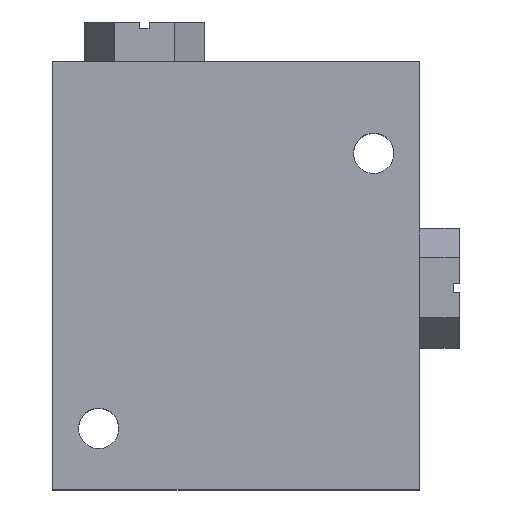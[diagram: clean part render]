
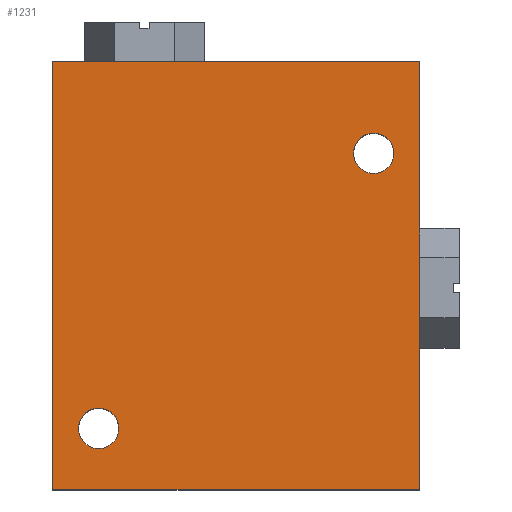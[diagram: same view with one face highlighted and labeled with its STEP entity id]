
A CAD part, top view. The second image highlights one B-rep face of the part: STEP entity #1231.
In plain terms, the highlighted planar face has unit normal (0, 0, 1).
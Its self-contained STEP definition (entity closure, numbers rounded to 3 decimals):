
#71=DIRECTION('',(0.,-1.,0.));
#72=VECTOR('',#71,70.);
#73=CARTESIAN_POINT('',(0.,70.,0.));
#74=LINE('',#73,#72);
#94=DIRECTION('',(1.,0.,0.));
#95=VECTOR('',#94,60.);
#96=CARTESIAN_POINT('',(0.,0.,0.));
#97=LINE('',#96,#95);
#133=DIRECTION('',(1.,0.,0.));
#134=VECTOR('',#133,60.);
#135=CARTESIAN_POINT('',(0.,70.,0.));
#136=LINE('',#135,#134);
#140=CARTESIAN_POINT('',(7.5,10.,0.));
#141=DIRECTION('',(0.,0.,-1.));
#142=DIRECTION('',(-1.,0.,0.));
#143=AXIS2_PLACEMENT_3D('',#140,#141,#142);
#148=CARTESIAN_POINT('',(7.5,10.,0.));
#149=DIRECTION('',(0.,0.,-1.));
#150=DIRECTION('',(1.,0.,0.));
#151=AXIS2_PLACEMENT_3D('',#148,#149,#150);
#156=CARTESIAN_POINT('',(52.5,55.,0.));
#157=DIRECTION('',(0.,0.,-1.));
#158=DIRECTION('',(-1.,0.,0.));
#159=AXIS2_PLACEMENT_3D('',#156,#157,#158);
#164=CARTESIAN_POINT('',(52.5,55.,0.));
#165=DIRECTION('',(0.,0.,-1.));
#166=DIRECTION('',(1.,0.,0.));
#167=AXIS2_PLACEMENT_3D('',#164,#165,#166);
#241=DIRECTION('',(0.,-1.,0.));
#242=VECTOR('',#241,70.);
#243=CARTESIAN_POINT('',(60.,70.,0.));
#244=LINE('',#243,#242);
#1020=CARTESIAN_POINT('',(0.,0.,0.));
#1022=VERTEX_POINT('',#1020);
#1026=CARTESIAN_POINT('',(0.,70.,0.));
#1027=VERTEX_POINT('',#1026);
#1028=CARTESIAN_POINT('',(60.,0.,0.));
#1030=VERTEX_POINT('',#1028);
#1034=CARTESIAN_POINT('',(60.,70.,0.));
#1035=VERTEX_POINT('',#1034);
#1125=CARTESIAN_POINT('',(4.2,10.,0.));
#1126=CARTESIAN_POINT('',(10.8,10.,0.));
#1127=VERTEX_POINT('',#1125);
#1128=VERTEX_POINT('',#1126);
#1133=CARTESIAN_POINT('',(49.2,55.,0.));
#1134=CARTESIAN_POINT('',(55.8,55.,0.));
#1135=VERTEX_POINT('',#1133);
#1136=VERTEX_POINT('',#1134);
#1206=CARTESIAN_POINT('',(0.,70.,0.));
#1207=DIRECTION('',(0.,0.,1.));
#1208=DIRECTION('',(0.,-1.,0.));
#1209=AXIS2_PLACEMENT_3D('',#1206,#1207,#1208);
#1210=PLANE('',#1209);
#1211=ORIENTED_EDGE('',*,*,#1168,.F.);
#1213=ORIENTED_EDGE('',*,*,#1212,.T.);
#1215=ORIENTED_EDGE('',*,*,#1214,.T.);
#1216=ORIENTED_EDGE('',*,*,#1185,.F.);
#1217=EDGE_LOOP('',(#1211,#1213,#1215,#1216));
#1218=FACE_OUTER_BOUND('',#1217,.F.);
#1220=ORIENTED_EDGE('',*,*,#1219,.F.);
#1222=ORIENTED_EDGE('',*,*,#1221,.F.);
#1223=EDGE_LOOP('',(#1220,#1222));
#1224=FACE_BOUND('',#1223,.F.);
#1226=ORIENTED_EDGE('',*,*,#1225,.F.);
#1228=ORIENTED_EDGE('',*,*,#1227,.F.);
#1229=EDGE_LOOP('',(#1226,#1228));
#1230=FACE_BOUND('',#1229,.F.);
#144=CIRCLE('',#143,3.3);
#152=CIRCLE('',#151,3.3);
#160=CIRCLE('',#159,3.3);
#168=CIRCLE('',#167,3.3);
#1168=EDGE_CURVE('',#1027,#1022,#74,.T.);
#1185=EDGE_CURVE('',#1022,#1030,#97,.T.);
#1212=EDGE_CURVE('',#1027,#1035,#136,.T.);
#1214=EDGE_CURVE('',#1035,#1030,#244,.T.);
#1219=EDGE_CURVE('',#1127,#1128,#144,.T.);
#1221=EDGE_CURVE('',#1128,#1127,#152,.T.);
#1225=EDGE_CURVE('',#1135,#1136,#160,.T.);
#1227=EDGE_CURVE('',#1136,#1135,#168,.T.);
#1231=ADVANCED_FACE('',(#1218,#1224,#1230),#1210,.T.);
